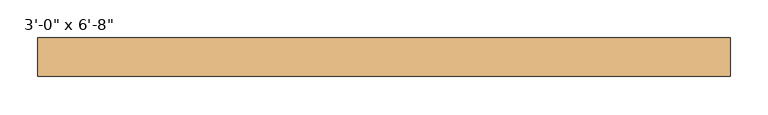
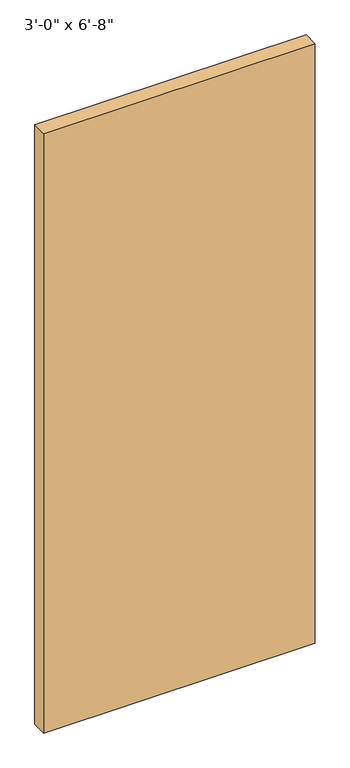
"""IFC4 building model written with IfcOpenShell, lengths in millimetres: door geometry."""

from ifc_helpers import new_model, si_unit, origin, origin_with_axes, place, context, project, spatial, polyline, outline, extrude, source, transform, mapped, element, save


def door_4b2f242a(model_context):
    return source(origin(), model_context, "Body", "SweptSolid", [
        extrude(outline(polyline([(457.5, -38.3), (-457.5, -38.3), (-457.5, 12.7), (457.5, 12.7), (457.5, -38.3)])), origin_with_axes(), (0.0, 0.0, 1.0), 2133.6),
    ])


if __name__ == "__main__":
    model = new_model("IFC4")
    model_context = context("Model", 3, world=origin())
    ifc_project = project(units=[si_unit("LENGTHUNIT", "METRE", prefix="MILLI")], contexts=[model_context])
    site = spatial("IfcSite", under=ifc_project)
    building = spatial("IfcBuilding", under=site)
    placement = place(None, origin())
    door_shape = door_4b2f242a(model_context)
    element("IfcDoor", 1, ObjectType="Planitar - Single Door_Flush Panel : 3'-0\" x 6'-8\"", at=placement, inside=building, context=model_context, shape_type="MappedRepresentation", body=[
        mapped(door_shape, transform((0.0, 0.0, 0.0), x_axis=(1.0, 0.0, 0.0), y_axis=(0.0, 1.0, 0.0), z_axis=(0.0, 0.0, 1.0))),
    ])
    save(model, "model.ifc")
